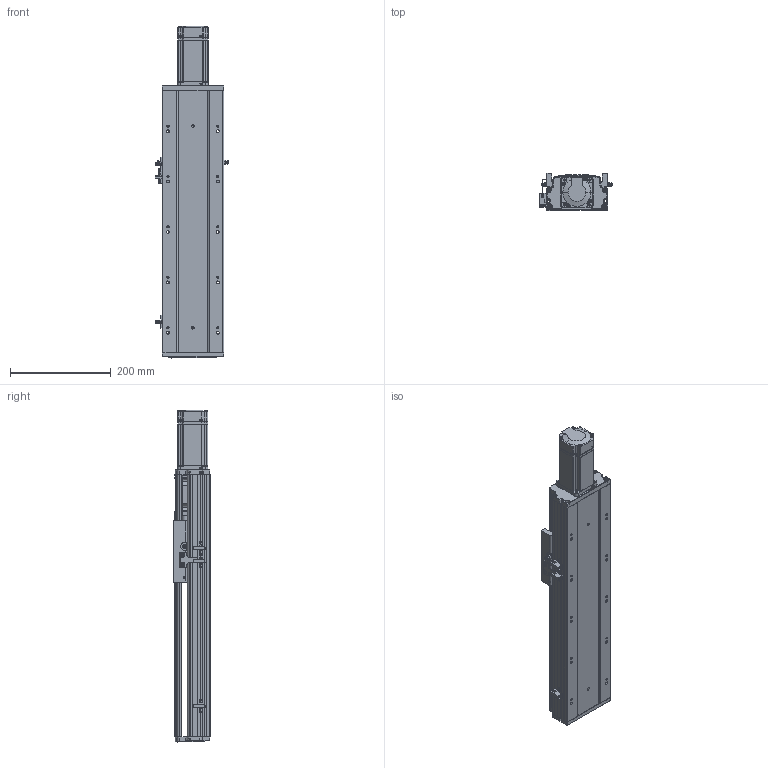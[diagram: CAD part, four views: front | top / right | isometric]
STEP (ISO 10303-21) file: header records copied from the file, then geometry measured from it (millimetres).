
FILE_DESCRIPTION (( 'STEP AP203' ), '1' );
FILE_NAME ('RYK120-L1610-S250-M40-C3-MK.STEP', '2026-03-09T07:49:12', ( '' ), ( '' ), 'SwSTEP 2.0', 'SolidWorks 2016', '' );
FILE_SCHEMA (( 'CONFIG_CONTROL_DESIGN' ));
Length unit declared in the file: millimetre
Products named in the file (17): RY120QGB-1.8; RYK120-L1610-S250-M40-C3-MK; 侂狟400W侜督萇儂; 44-49-12-14; RY120外置感应片(140共用）; 15; 滅袉蝶18-24; RYK120-300-MK-菁釱-啞_250; RY120-16螺母油路-集中注油组合; RYK120-300-MK-奻裔啣-啞_250; 2.10.1.C521-V1.0RY120臏賑輸16蹟譫-啞-JZZY-NRL-L1899; RY120电机端支撑座-压铸加工-M5; RY120綴裔啣; 滅袉蝶18-10; RYK170-薊粣ん芵隴裔啣; CB╱T 3762-1996[锥形润滑油嘴1-ZM10×1]_1-ZM10×1; 覜茼ん672
Assembly tree (21 placements, depth 3):
  RYK120-L1610-S250-M40-C3-MK
    RYK120-300-MK-菁釱-啞_250
    RYK120-300-MK-奻裔啣-啞_250
    RY120綴裔啣
    滅袉蝶18-24  x2
    滅袉蝶18-10  x2
    覜茼ん672  x3
    RY120外置感应片(140共用）
    RY120QGB-1.8
    RY120-16螺母油路-集中注油组合
      2.10.1.C521-V1.0RY120臏賑輸16蹟譫-啞-JZZY-NRL-L1899
      CB╱T 3762-1996[锥形润滑油嘴1-ZM10×1]_1-ZM10×1  x2
    RY120电机端支撑座-压铸加工-M5
    RYK170-薊粣ん芵隴裔啣
    44-49-12-14
    侂狟400W侜督萇儂
      15
Bounding box: 145.7 x 73 x 658.5 mm (x, y, z)
Volume: 2059296.3 mm3; surface area: 663615.6 mm2
Topology: 23 solids, 23 shells, 2446 faces, 6778 edges, 4349 vertices
Faces by surface type: plane 1181, cylinder 911, cone 227, bspline 127
Entity records: 81022 total; most frequent: CARTESIAN_POINT 23134, ORIENTED_EDGE 12128, DIRECTION 11131, EDGE_CURVE 6064, VERTEX_POINT 3961, AXIS2_PLACEMENT_3D 3790, VECTOR 3551, LINE 3551
